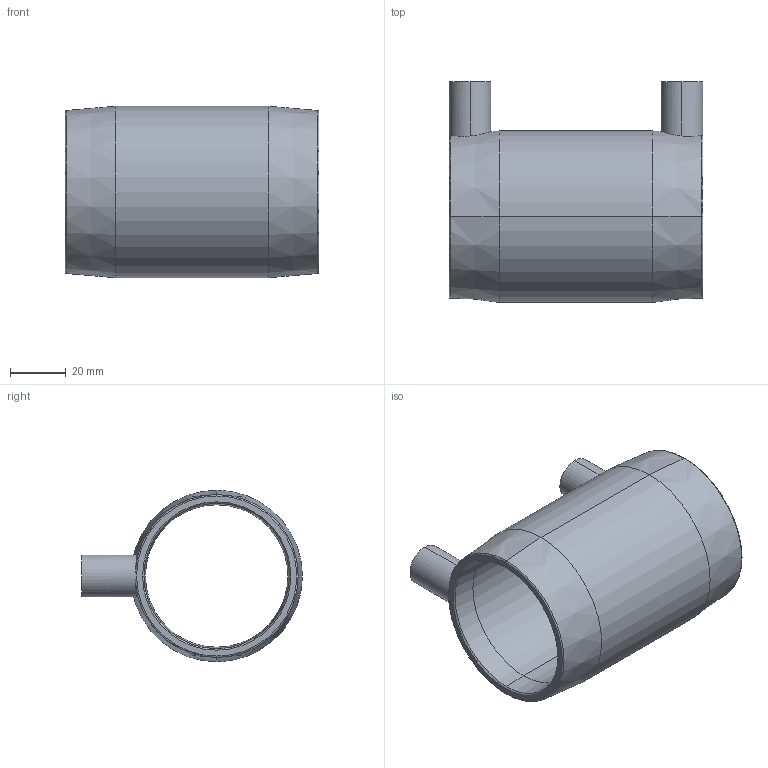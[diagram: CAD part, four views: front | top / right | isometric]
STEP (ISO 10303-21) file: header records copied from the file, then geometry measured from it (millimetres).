
FILE_DESCRIPTION (( 'STEP AP214' ), '1' );
FILE_NAME ('CBKHA50.STEP', '2018-09-19T14:01:59', ( '' ), ( '' ), 'SwSTEP 2.0', 'SolidWorks 2017', '' );
FILE_SCHEMA (( 'AUTOMOTIVE_DESIGN' ));
Length unit declared in the file: millimetre
Products named in the file (1): CBKHA50
Bounding box: 91 x 79.2 x 61.5 mm (x, y, z)
Volume: 81831.3 mm3; surface area: 36346 mm2
Topology: 1 solids, 1 shells, 68 faces, 142 edges, 82 vertices
Faces by surface type: cone 24, cylinder 20, torus 14, plane 10
Entity records: 2114 total; most frequent: CARTESIAN_POINT 469, DIRECTION 358, ORIENTED_EDGE 284, AXIS2_PLACEMENT_3D 157, EDGE_CURVE 142, CIRCLE 88, VERTEX_POINT 82, EDGE_LOOP 76
